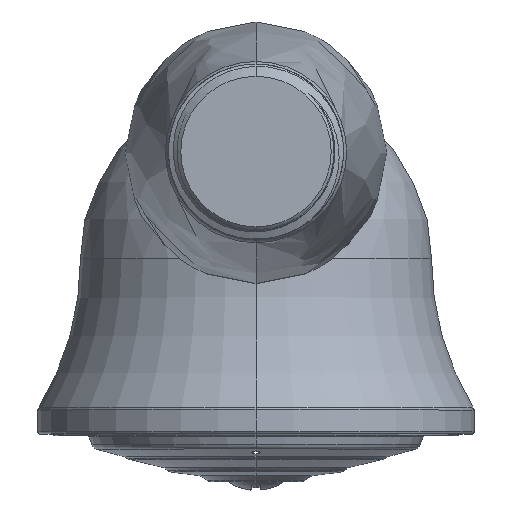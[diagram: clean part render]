
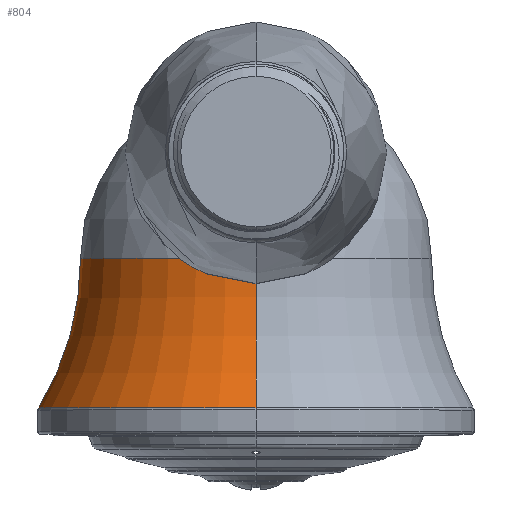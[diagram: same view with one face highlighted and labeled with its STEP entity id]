
A CAD part, top view. The second image highlights one B-rep face of the part: STEP entity #804.
In plain terms, the highlighted toroidal (fillet/blend) face has major radius 55.31 mm and minor radius 34.31 mm.
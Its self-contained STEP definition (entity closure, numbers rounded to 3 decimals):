
#226=CARTESIAN_POINT('',(0.,21.,0.));
#227=DIRECTION('',(0.,-1.,0.));
#228=DIRECTION('',(0.,0.,1.));
#229=AXIS2_PLACEMENT_3D('',#226,#227,#228);
#236=CARTESIAN_POINT('',(0.,21.,55.31));
#237=DIRECTION('',(1.,0.,0.));
#238=DIRECTION('',(0.,-0.521,-0.853));
#239=AXIS2_PLACEMENT_3D('',#236,#237,#238);
#241=CARTESIAN_POINT('',(0.,3.121,0.));
#242=DIRECTION('',(0.,-1.,0.));
#243=DIRECTION('',(0.,0.,1.));
#244=AXIS2_PLACEMENT_3D('',#241,#242,#243);
#246=CARTESIAN_POINT('',(0.,21.,-55.31));
#247=DIRECTION('',(-1.,0.,0.));
#248=DIRECTION('',(0.,-0.521,0.853));
#249=AXIS2_PLACEMENT_3D('',#246,#247,#248);
#320=CARTESIAN_POINT('',(0.,3.121,26.027));
#321=VERTEX_POINT('',#320);
#322=CARTESIAN_POINT('',(0.,21.,21.));
#323=VERTEX_POINT('',#322);
#330=CARTESIAN_POINT('',(0.,3.121,-26.027));
#331=VERTEX_POINT('',#330);
#332=CARTESIAN_POINT('',(0.,21.,-21.));
#333=VERTEX_POINT('',#332);
#790=CARTESIAN_POINT('',(0.,21.,0.));
#791=DIRECTION('',(0.,1.,0.));
#792=DIRECTION('',(0.,0.,1.));
#793=AXIS2_PLACEMENT_3D('',#790,#791,#792);
#794=TOROIDAL_SURFACE('',#793,55.31,34.31);
#796=ORIENTED_EDGE('',*,*,#795,.F.);
#798=ORIENTED_EDGE('',*,*,#797,.T.);
#800=ORIENTED_EDGE('',*,*,#799,.T.);
#801=ORIENTED_EDGE('',*,*,#784,.F.);
#802=EDGE_LOOP('',(#796,#798,#800,#801));
#803=FACE_OUTER_BOUND('',#802,.F.);
#804=ADVANCED_FACE('',(#803),#794,.F.);
#230=CIRCLE('',#229,21.);
#240=CIRCLE('',#239,34.31);
#245=CIRCLE('',#244,26.027);
#250=CIRCLE('',#249,34.31);
#784=EDGE_CURVE('',#323,#333,#230,.T.);
#795=EDGE_CURVE('',#321,#323,#240,.T.);
#797=EDGE_CURVE('',#321,#331,#245,.T.);
#799=EDGE_CURVE('',#331,#333,#250,.T.);
